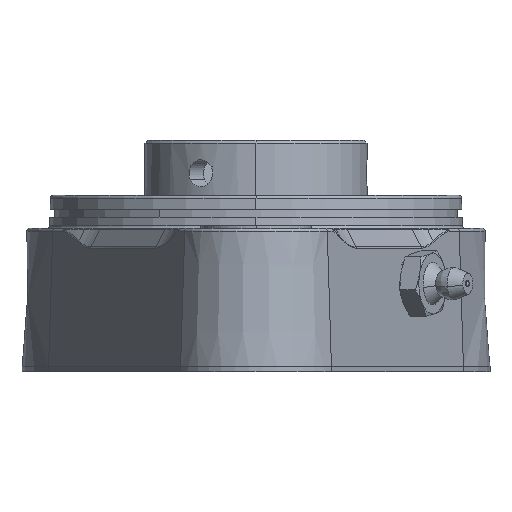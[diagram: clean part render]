
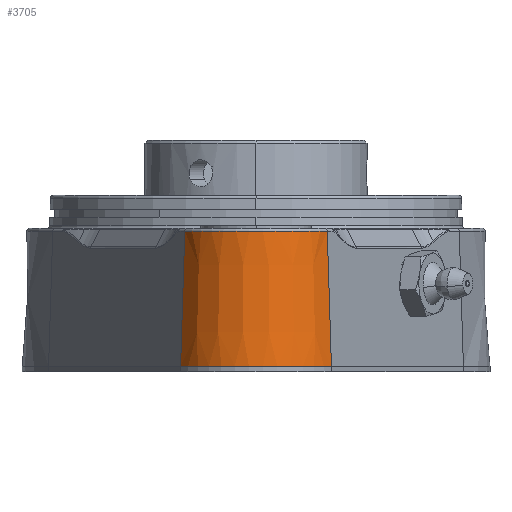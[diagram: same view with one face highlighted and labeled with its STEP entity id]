
A CAD part, left-side view. The second image highlights one B-rep face of the part: STEP entity #3705.
In plain terms, the highlighted conical face has half-angle 2 degrees and reference radius 15.5 mm.
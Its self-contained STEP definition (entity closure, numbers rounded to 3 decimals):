
#416=CARTESIAN_POINT('Vertex',(-65.622,-13.688,2.)) ;
#419=CARTESIAN_POINT('Axis2P3D Location',(-58.5,0.,2.)) ;
#423=CARTESIAN_POINT('Vertex',(-65.622,13.688,2.)) ;
#2231=CARTESIAN_POINT('Vertex',(-65.226,12.929,26.517)) ;
#2256=CARTESIAN_POINT('Axis2P3D Location',(-58.5,0.,26.517)) ;
#2260=CARTESIAN_POINT('Vertex',(-65.226,-12.929,26.517)) ;
#3358=CARTESIAN_POINT('Line Origine',(-65.436,-13.332,13.5)) ;
#3486=CARTESIAN_POINT('Line Origine',(-65.436,13.332,13.5)) ;
#3694=CARTESIAN_POINT('Axis2P3D Location',(-58.5,0.,0.)) ;
#420=DIRECTION('Axis2P3D Direction',(0.,0.,-1.)) ;
#2257=DIRECTION('Axis2P3D Direction',(0.,-0.,1.)) ;
#3359=DIRECTION('Vector Direction',(-0.016,-0.031,-0.999)) ;
#3487=DIRECTION('Vector Direction',(-0.016,0.031,-0.999)) ;
#3695=DIRECTION('Axis2P3D Direction',(-0.,-0.,-1.)) ;
#3696=DIRECTION('Axis2P3D XDirection',(-0.462,0.887,0.)) ;
#421=AXIS2_PLACEMENT_3D('Circle Axis2P3D',#419,#420,$) ;
#2258=AXIS2_PLACEMENT_3D('Circle Axis2P3D',#2256,#2257,$) ;
#3697=AXIS2_PLACEMENT_3D('Cone Axis2P3D',#3694,#3695,#3696) ;
#3700=ORIENTED_EDGE('',*,*,#425,.F.) ;
#3701=ORIENTED_EDGE('',*,*,#3362,.T.) ;
#3702=ORIENTED_EDGE('',*,*,#2262,.F.) ;
#3703=ORIENTED_EDGE('',*,*,#3490,.F.) ;
#3360=VECTOR('Line Direction',#3359,1.) ;
#3488=VECTOR('Line Direction',#3487,1.) ;
#3705=ADVANCED_FACE('PartBody',(#3704),#3698,.T.) ;
#422=CIRCLE('generated circle',#421,15.43) ;
#2259=CIRCLE('generated circle',#2258,14.574) ;
#3698=CONICAL_SURFACE('Cone',#3697,15.5,0.035) ;
#425=EDGE_CURVE('',#417,#424,#422,.T.) ;
#2262=EDGE_CURVE('',#2232,#2261,#2259,.T.) ;
#3362=EDGE_CURVE('',#417,#2261,#3361,.F.) ;
#3490=EDGE_CURVE('',#424,#2232,#3489,.F.) ;
#3699=EDGE_LOOP('',(#3700,#3701,#3702,#3703)) ;
#3704=FACE_OUTER_BOUND('',#3699,.T.) ;
#3361=LINE('Line',#3358,#3360) ;
#3489=LINE('Line',#3486,#3488) ;
#417=VERTEX_POINT('',#416) ;
#424=VERTEX_POINT('',#423) ;
#2232=VERTEX_POINT('',#2231) ;
#2261=VERTEX_POINT('',#2260) ;
